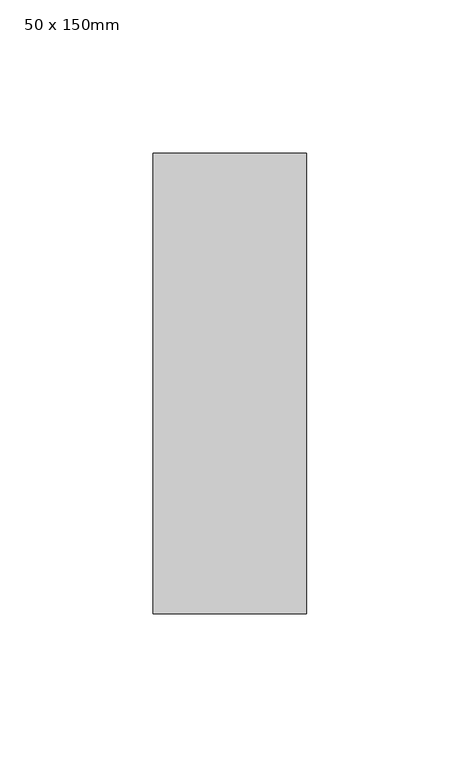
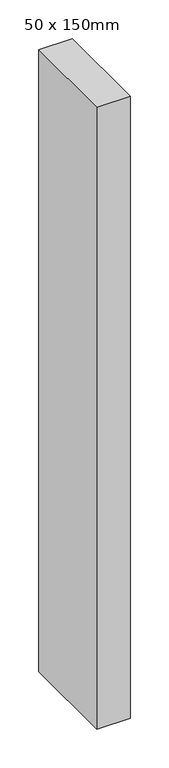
"""IFC4 building model written with IfcOpenShell, lengths in millimetres: member geometry, 矩形豎框 : 50 x 150mm."""

from ifc_helpers import new_model, si_unit, frame, origin, place, context, project, spatial, polyline, outline, extrude, source, transform, mapped, element, save


def member_50_x_150mm_ebe7889a(model_context):
    return source(origin(), model_context, "Body", "SweptSolid", [
        extrude(outline(polyline([(25.0, 75.0), (25.0, -75.0), (-25.0, -75.0), (-25.0, 75.0), (25.0, 75.0)])), frame((0.0, 0.0, -983.1595946), z_axis=(0.0, 0.0, 1.0), x_axis=(1.0, 0.0, 0.0)), (0.0, 0.0, 1.0), 983.1595946),
    ])


if __name__ == "__main__":
    model = new_model("IFC4")
    model_context = context("Model", 3, world=origin())
    ifc_project = project(units=[si_unit("LENGTHUNIT", "METRE", prefix="MILLI")], contexts=[model_context])
    site = spatial("IfcSite", under=ifc_project)
    building = spatial("IfcBuilding", under=site)
    placement = place(None, origin())
    member_50_x_150mm_shape = member_50_x_150mm_ebe7889a(model_context)
    element("IfcMember", 1, ObjectType="矩形豎框 : 50 x 150mm", at=placement, inside=building, context=model_context, shape_type="MappedRepresentation", body=[
        mapped(member_50_x_150mm_shape, transform((0.0, 0.0, 0.0), x_axis=(1.0, 0.0, 0.0), y_axis=(0.0, 1.0, 0.0), z_axis=(0.0, 0.0, 1.0))),
    ])
    save(model, "model.ifc")
